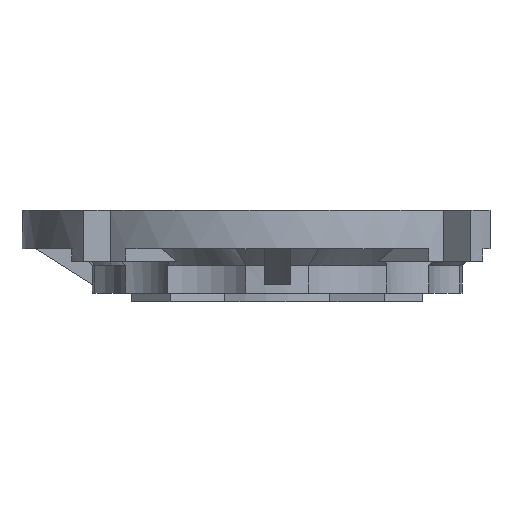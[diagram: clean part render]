
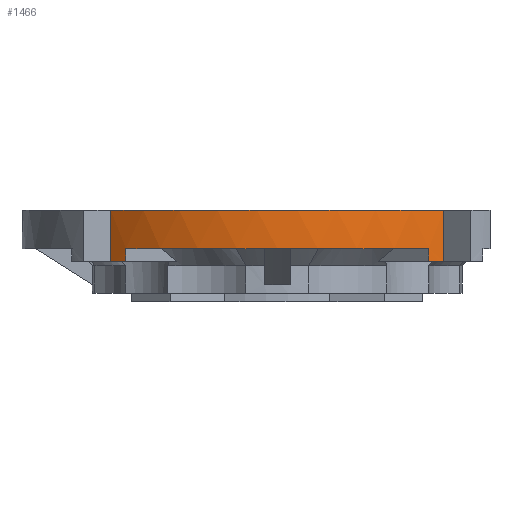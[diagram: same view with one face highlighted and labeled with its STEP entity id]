
A CAD part, front view. The second image highlights one B-rep face of the part: STEP entity #1466.
In plain terms, the highlighted cylindrical face has radius 60 mm (diameter 120 mm), a partial arc.
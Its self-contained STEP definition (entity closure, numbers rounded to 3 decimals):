
#1466=ADVANCED_FACE('',(#1629),#4244,.T.);
#1629=FACE_OUTER_BOUND('',#1795,.T.);
#1795=EDGE_LOOP('',(#2598,#2599,#2600,#2601,#2602,#2603,#2604,#2605));
#2598=ORIENTED_EDGE('',*,*,#3107,.T.);
#2599=ORIENTED_EDGE('',*,*,#3108,.T.);
#2600=ORIENTED_EDGE('',*,*,#3028,.F.);
#2601=ORIENTED_EDGE('',*,*,#3109,.T.);
#2602=ORIENTED_EDGE('',*,*,#3008,.F.);
#2603=ORIENTED_EDGE('',*,*,#3110,.T.);
#2604=ORIENTED_EDGE('',*,*,#3111,.T.);
#2605=ORIENTED_EDGE('',*,*,#3112,.T.);
#3008=EDGE_CURVE('',#3988,#3924,#3340,.T.);
#3028=EDGE_CURVE('',#3925,#3962,#3360,.T.);
#3107=EDGE_CURVE('',#3935,#3964,#3415,.T.);
#3108=EDGE_CURVE('',#3964,#3962,#3568,.T.);
#3109=EDGE_CURVE('',#3925,#3924,#3569,.T.);
#3110=EDGE_CURVE('',#3988,#3987,#3570,.T.);
#3111=EDGE_CURVE('',#3987,#3934,#3416,.T.);
#3112=EDGE_CURVE('',#3934,#3935,#3571,.T.);
#3340=B_SPLINE_CURVE_WITH_KNOTS('',1,(#6871,#6872),.UNSPECIFIED.,.F.,.F.,
(2,2),(0.,3.),.UNSPECIFIED.);
#3360=B_SPLINE_CURVE_WITH_KNOTS('',1,(#6921,#6922),.UNSPECIFIED.,.F.,.F.,
(2,2),(0.,3.),.UNSPECIFIED.);
#3415=B_SPLINE_CURVE_WITH_KNOTS('',1,(#7163,#7164),.UNSPECIFIED.,.F.,.F.,
(2,2),(0.,12.),.UNSPECIFIED.);
#3416=B_SPLINE_CURVE_WITH_KNOTS('',1,(#7174,#7175),.UNSPECIFIED.,.F.,.F.,
(2,2),(0.,12.),.UNSPECIFIED.);
#3568=TRIMMED_CURVE($,#3758,(#7166),(#7167),.T.,.CARTESIAN.);
#3569=TRIMMED_CURVE($,#3759,(#7169),(#7170),.T.,.CARTESIAN.);
#3570=TRIMMED_CURVE($,#3760,(#7172),(#7173),.T.,.CARTESIAN.);
#3571=TRIMMED_CURVE($,#3761,(#7177),(#7178),.T.,.CARTESIAN.);
#3758=CIRCLE('',#4717,60.);
#3759=CIRCLE('',#4718,60.);
#3760=CIRCLE('',#4719,60.);
#3761=CIRCLE('',#4720,60.);
#3924=VERTEX_POINT('',#5945);
#3925=VERTEX_POINT('',#5946);
#3934=VERTEX_POINT('',#5955);
#3935=VERTEX_POINT('',#5956);
#3962=VERTEX_POINT('',#5983);
#3964=VERTEX_POINT('',#5985);
#3987=VERTEX_POINT('',#6008);
#3988=VERTEX_POINT('',#6009);
#4244=CYLINDRICAL_SURFACE('',#4550,60.);
#4550=AXIS2_PLACEMENT_3D('',#5802,#4883,$);
#4717=AXIS2_PLACEMENT_3D($,#7165,#5190,#5191);
#4718=AXIS2_PLACEMENT_3D($,#7168,#5192,#5193);
#4719=AXIS2_PLACEMENT_3D($,#7171,#5194,#5195);
#4720=AXIS2_PLACEMENT_3D($,#7176,#5196,#5197);
#4883=DIRECTION('',(-1.,0.,0.));
#5190=DIRECTION('',(1.,0.,0.));
#5191=DIRECTION('',(0.,0.758,-0.652));
#5192=DIRECTION('',(1.,0.,0.));
#5193=DIRECTION('',(0.,0.805,-0.593));
#5194=DIRECTION('',(1.,0.,0.));
#5195=DIRECTION('',(0.,0.805,0.593));
#5196=DIRECTION('',(-1.,0.,0.));
#5197=DIRECTION('',(0.,0.758,0.652));
#5802=CARTESIAN_POINT('',(15.5,0.,0.));
#5945=CARTESIAN_POINT('',(12.5,48.31,35.582));
#5946=CARTESIAN_POINT('',(12.5,48.31,-35.582));
#5955=CARTESIAN_POINT('',(21.5,45.489,39.125));
#5956=CARTESIAN_POINT('',(21.5,45.489,-39.125));
#5983=CARTESIAN_POINT('',(9.5,48.31,-35.582));
#5985=CARTESIAN_POINT('',(9.5,45.489,-39.125));
#6008=CARTESIAN_POINT('',(9.5,45.489,39.125));
#6009=CARTESIAN_POINT('',(9.5,48.31,35.582));
#6871=CARTESIAN_POINT('',(9.5,48.31,35.582));
#6872=CARTESIAN_POINT('',(12.5,48.31,35.582));
#6921=CARTESIAN_POINT('',(12.5,48.31,-35.582));
#6922=CARTESIAN_POINT('',(9.5,48.31,-35.582));
#7163=CARTESIAN_POINT('',(21.5,45.489,-39.125));
#7164=CARTESIAN_POINT('',(9.5,45.489,-39.125));
#7165=CARTESIAN_POINT('',(9.5,0.,0.));
#7166=CARTESIAN_POINT('',(9.5,45.489,-39.125));
#7167=CARTESIAN_POINT('',(9.5,48.31,-35.582));
#7168=CARTESIAN_POINT('',(12.5,0.,0.));
#7169=CARTESIAN_POINT('',(12.5,48.31,-35.582));
#7170=CARTESIAN_POINT('',(12.5,48.31,35.582));
#7171=CARTESIAN_POINT('',(9.5,0.,0.));
#7172=CARTESIAN_POINT('',(9.5,48.31,35.582));
#7173=CARTESIAN_POINT('',(9.5,45.489,39.125));
#7174=CARTESIAN_POINT('',(9.5,45.489,39.125));
#7175=CARTESIAN_POINT('',(21.5,45.489,39.125));
#7176=CARTESIAN_POINT('',(21.5,0.,0.));
#7177=CARTESIAN_POINT('',(21.5,45.489,39.125));
#7178=CARTESIAN_POINT('',(21.5,45.489,-39.125));
